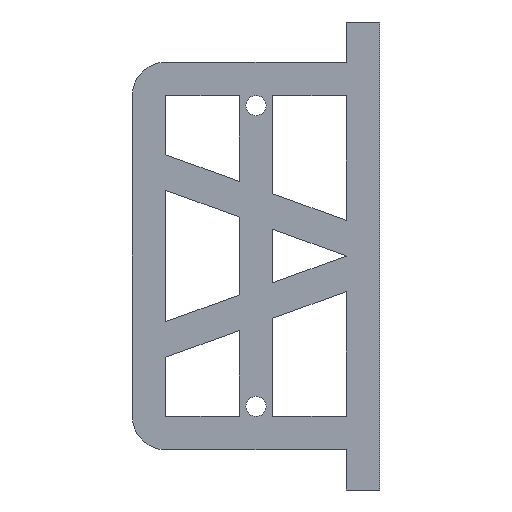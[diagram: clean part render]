
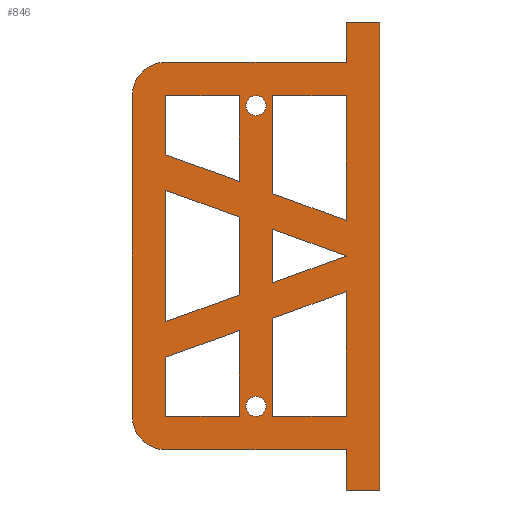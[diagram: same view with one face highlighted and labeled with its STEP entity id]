
A CAD part, left-side view. The second image highlights one B-rep face of the part: STEP entity #846.
In plain terms, the highlighted planar face has unit normal (-1, 0, 0).
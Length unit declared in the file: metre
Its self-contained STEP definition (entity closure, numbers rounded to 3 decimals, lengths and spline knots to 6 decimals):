
#20=LINE('',#1138,#115);
#24=LINE('',#1151,#119);
#28=LINE('',#1162,#123);
#32=LINE('',#1171,#127);
#35=LINE('',#1177,#130);
#38=LINE('',#1183,#133);
#42=LINE('',#1192,#137);
#45=LINE('',#1198,#140);
#48=LINE('',#1204,#143);
#52=LINE('',#1213,#147);
#55=LINE('',#1221,#150);
#58=LINE('',#1227,#153);
#62=LINE('',#1236,#157);
#65=LINE('',#1242,#160);
#68=LINE('',#1248,#163);
#72=LINE('',#1257,#167);
#75=LINE('',#1263,#170);
#79=LINE('',#1272,#174);
#82=LINE('',#1278,#177);
#85=LINE('',#1286,#180);
#89=LINE('',#1295,#184);
#93=LINE('',#1310,#188);
#96=LINE('',#1318,#191);
#99=LINE('',#1324,#194);
#101=LINE('',#1327,#196);
#103=LINE('',#1330,#198);
#105=LINE('',#1333,#200);
#107=LINE('',#1336,#202);
#109=LINE('',#1339,#204);
#111=LINE('',#1342,#206);
#113=LINE('',#1347,#208);
#115=VECTOR('',#929,1.);
#119=VECTOR('',#939,1.);
#123=VECTOR('',#947,1.);
#127=VECTOR('',#953,1.);
#130=VECTOR('',#958,1.);
#133=VECTOR('',#963,1.);
#137=VECTOR('',#969,1.);
#140=VECTOR('',#974,1.);
#143=VECTOR('',#979,1.);
#147=VECTOR('',#985,1.);
#150=VECTOR('',#992,1.);
#153=VECTOR('',#997,1.);
#157=VECTOR('',#1003,1.);
#160=VECTOR('',#1008,1.);
#163=VECTOR('',#1013,1.);
#167=VECTOR('',#1019,1.);
#170=VECTOR('',#1024,1.);
#174=VECTOR('',#1030,1.);
#177=VECTOR('',#1035,1.);
#180=VECTOR('',#1042,1.);
#184=VECTOR('',#1048,1.);
#188=VECTOR('',#1066,1.);
#191=VECTOR('',#1073,1.);
#194=VECTOR('',#1078,1.);
#196=VECTOR('',#1082,1.);
#198=VECTOR('',#1086,1.);
#200=VECTOR('',#1090,1.);
#202=VECTOR('',#1094,1.);
#204=VECTOR('',#1098,1.);
#206=VECTOR('',#1102,1.);
#208=VECTOR('',#1108,1.);
#385=ORIENTED_EDGE('',*,*,#541,.T.);
#386=ORIENTED_EDGE('',*,*,#542,.T.);
#387=ORIENTED_EDGE('',*,*,#503,.F.);
#388=ORIENTED_EDGE('',*,*,#534,.F.);
#389=ORIENTED_EDGE('',*,*,#439,.T.);
#390=ORIENTED_EDGE('',*,*,#522,.T.);
#391=ORIENTED_EDGE('',*,*,#519,.T.);
#392=ORIENTED_EDGE('',*,*,#515,.T.);
#393=ORIENTED_EDGE('',*,*,#512,.T.);
#394=ORIENTED_EDGE('',*,*,#433,.F.);
#395=ORIENTED_EDGE('',*,*,#510,.F.);
#396=ORIENTED_EDGE('',*,*,#507,.F.);
#397=ORIENTED_EDGE('',*,*,#492,.F.);
#398=ORIENTED_EDGE('',*,*,#532,.T.);
#399=ORIENTED_EDGE('',*,*,#499,.T.);
#400=ORIENTED_EDGE('',*,*,#496,.F.);
#401=ORIENTED_EDGE('',*,*,#485,.F.);
#402=ORIENTED_EDGE('',*,*,#530,.T.);
#403=ORIENTED_EDGE('',*,*,#489,.T.);
#404=ORIENTED_EDGE('',*,*,#475,.F.);
#405=ORIENTED_EDGE('',*,*,#528,.T.);
#406=ORIENTED_EDGE('',*,*,#482,.T.);
#407=ORIENTED_EDGE('',*,*,#479,.F.);
#408=ORIENTED_EDGE('',*,*,#464,.F.);
#409=ORIENTED_EDGE('',*,*,#526,.F.);
#410=ORIENTED_EDGE('',*,*,#472,.F.);
#411=ORIENTED_EDGE('',*,*,#468,.T.);
#412=ORIENTED_EDGE('',*,*,#454,.T.);
#413=ORIENTED_EDGE('',*,*,#524,.T.);
#414=ORIENTED_EDGE('',*,*,#461,.T.);
#415=ORIENTED_EDGE('',*,*,#458,.F.);
#416=ORIENTED_EDGE('',*,*,#444,.F.);
#417=ORIENTED_EDGE('',*,*,#537,.T.);
#418=ORIENTED_EDGE('',*,*,#451,.T.);
#419=ORIENTED_EDGE('',*,*,#448,.F.);
#433=EDGE_CURVE('',#544,#545,#20,.T.);
#439=EDGE_CURVE('',#550,#551,#24,.T.);
#444=EDGE_CURVE('',#555,#556,#28,.T.);
#448=EDGE_CURVE('',#556,#559,#32,.T.);
#451=EDGE_CURVE('',#561,#559,#35,.T.);
#454=EDGE_CURVE('',#563,#564,#38,.T.);
#458=EDGE_CURVE('',#563,#567,#42,.T.);
#461=EDGE_CURVE('',#569,#567,#45,.T.);
#464=EDGE_CURVE('',#571,#572,#48,.T.);
#468=EDGE_CURVE('',#575,#572,#52,.T.);
#472=EDGE_CURVE('',#575,#578,#55,.T.);
#475=EDGE_CURVE('',#580,#581,#58,.T.);
#479=EDGE_CURVE('',#581,#584,#62,.T.);
#482=EDGE_CURVE('',#586,#584,#65,.T.);
#485=EDGE_CURVE('',#588,#589,#68,.T.);
#489=EDGE_CURVE('',#592,#589,#72,.T.);
#492=EDGE_CURVE('',#594,#595,#75,.T.);
#496=EDGE_CURVE('',#595,#598,#79,.T.);
#499=EDGE_CURVE('',#600,#598,#82,.T.);
#503=EDGE_CURVE('',#603,#604,#85,.T.);
#507=EDGE_CURVE('',#604,#607,#89,.T.);
#510=EDGE_CURVE('',#607,#544,#627,.T.);
#512=EDGE_CURVE('',#609,#545,#629,.T.);
#515=EDGE_CURVE('',#611,#609,#93,.T.);
#519=EDGE_CURVE('',#614,#611,#96,.T.);
#522=EDGE_CURVE('',#551,#614,#99,.T.);
#524=EDGE_CURVE('',#564,#569,#101,.T.);
#526=EDGE_CURVE('',#578,#571,#103,.T.);
#528=EDGE_CURVE('',#580,#586,#105,.T.);
#530=EDGE_CURVE('',#588,#592,#107,.T.);
#532=EDGE_CURVE('',#594,#600,#109,.T.);
#534=EDGE_CURVE('',#550,#603,#111,.T.);
#537=EDGE_CURVE('',#555,#561,#113,.T.);
#541=EDGE_CURVE('',#619,#619,#635,.T.);
#542=EDGE_CURVE('',#620,#620,#636,.T.);
#544=VERTEX_POINT('',#1139);
#545=VERTEX_POINT('',#1140);
#550=VERTEX_POINT('',#1152);
#551=VERTEX_POINT('',#1153);
#555=VERTEX_POINT('',#1163);
#556=VERTEX_POINT('',#1164);
#559=VERTEX_POINT('',#1172);
#561=VERTEX_POINT('',#1178);
#563=VERTEX_POINT('',#1184);
#564=VERTEX_POINT('',#1185);
#567=VERTEX_POINT('',#1193);
#569=VERTEX_POINT('',#1199);
#571=VERTEX_POINT('',#1205);
#572=VERTEX_POINT('',#1206);
#575=VERTEX_POINT('',#1214);
#578=VERTEX_POINT('',#1222);
#580=VERTEX_POINT('',#1228);
#581=VERTEX_POINT('',#1229);
#584=VERTEX_POINT('',#1237);
#586=VERTEX_POINT('',#1243);
#588=VERTEX_POINT('',#1249);
#589=VERTEX_POINT('',#1250);
#592=VERTEX_POINT('',#1258);
#594=VERTEX_POINT('',#1264);
#595=VERTEX_POINT('',#1265);
#598=VERTEX_POINT('',#1273);
#600=VERTEX_POINT('',#1279);
#603=VERTEX_POINT('',#1287);
#604=VERTEX_POINT('',#1288);
#607=VERTEX_POINT('',#1296);
#609=VERTEX_POINT('',#1305);
#611=VERTEX_POINT('',#1311);
#614=VERTEX_POINT('',#1319);
#619=VERTEX_POINT('',#1356);
#620=VERTEX_POINT('',#1358);
#627=CIRCLE('',#894,0.005);
#629=CIRCLE('',#897,0.005);
#635=CIRCLE('',#915,0.0015);
#636=CIRCLE('',#916,0.0015);
#687=EDGE_LOOP('',(#385));
#688=EDGE_LOOP('',(#386));
#689=EDGE_LOOP('',(#387,#388,#389,#390,#391,#392,#393,#394,#395,#396));
#690=EDGE_LOOP('',(#397,#398,#399,#400));
#691=EDGE_LOOP('',(#401,#402,#403));
#692=EDGE_LOOP('',(#404,#405,#406,#407));
#693=EDGE_LOOP('',(#408,#409,#410,#411));
#694=EDGE_LOOP('',(#412,#413,#414,#415));
#695=EDGE_LOOP('',(#416,#417,#418,#419));
#758=FACE_BOUND('',#687,.T.);
#759=FACE_BOUND('',#688,.T.);
#760=FACE_BOUND('',#689,.T.);
#761=FACE_BOUND('',#690,.T.);
#762=FACE_BOUND('',#691,.T.);
#763=FACE_BOUND('',#692,.T.);
#764=FACE_BOUND('',#693,.T.);
#765=FACE_BOUND('',#694,.T.);
#766=FACE_BOUND('',#695,.T.);
#811=PLANE('',#914);
#846=ADVANCED_FACE('',(#758,#759,#760,#761,#762,#763,#764,#765,#766),#811,
 .F.);
#894=AXIS2_PLACEMENT_3D('',#1301,#1053,#1054);
#897=AXIS2_PLACEMENT_3D('',#1304,#1059,#1060);
#914=AXIS2_PLACEMENT_3D('',#1354,#1116,#1117);
#915=AXIS2_PLACEMENT_3D('',#1355,#1118,#1119);
#916=AXIS2_PLACEMENT_3D('',#1357,#1120,#1121);
#929=DIRECTION('',(0.,0.,1.));
#939=DIRECTION('',(0.,0.,1.));
#947=DIRECTION('',(0.,-0.94,-0.342));
#953=DIRECTION('',(0.,0.,1.));
#958=DIRECTION('',(0.,-1.,0.));
#963=DIRECTION('',(0.,0.,1.));
#969=DIRECTION('',(0.,-0.94,-0.342));
#974=DIRECTION('',(0.,0.,-1.));
#979=DIRECTION('',(0.,0.,1.));
#985=DIRECTION('',(0.,-0.94,0.342));
#992=DIRECTION('',(0.,0.,-1.));
#997=DIRECTION('',(0.,-0.94,0.342));
#1003=DIRECTION('',(0.,0.,1.));
#1008=DIRECTION('',(0.,-0.94,-0.342));
#1013=DIRECTION('',(0.,-0.94,0.342));
#1019=DIRECTION('',(0.,-0.94,-0.342));
#1024=DIRECTION('',(0.,-1.,0.));
#1030=DIRECTION('',(0.,0.,1.));
#1035=DIRECTION('',(0.,-0.94,0.342));
#1042=DIRECTION('',(0.,0.,1.));
#1048=DIRECTION('',(0.,1.,0.));
#1053=DIRECTION('',(1.,0.,0.));
#1054=DIRECTION('',(0.,1.,0.));
#1059=DIRECTION('',(-1.,0.,0.));
#1060=DIRECTION('',(0.,1.,0.));
#1066=DIRECTION('',(0.,1.,0.));
#1073=DIRECTION('',(0.,0.,-1.));
#1078=DIRECTION('',(0.,1.,0.));
#1082=DIRECTION('',(0.,-1.,0.));
#1086=DIRECTION('',(0.,-1.,0.));
#1090=DIRECTION('',(0.,0.,1.));
#1094=DIRECTION('',(0.,0.,1.));
#1098=DIRECTION('',(0.,0.,1.));
#1102=DIRECTION('',(0.,1.,0.));
#1108=DIRECTION('',(0.,0.,1.));
#1116=DIRECTION('',(1.,0.,0.));
#1117=DIRECTION('',(0.,0.,1.));
#1118=DIRECTION('',(1.,0.,0.));
#1119=DIRECTION('',(0.,1.,0.));
#1120=DIRECTION('',(1.,0.,0.));
#1121=DIRECTION('',(0.,1.,0.));
#1138=CARTESIAN_POINT('',(0.,0.,-0.023));
#1139=CARTESIAN_POINT('',(0.,0.,-0.024));
#1140=CARTESIAN_POINT('',(0.,0.,0.024));
#1151=CARTESIAN_POINT('',(0.,-0.037,-0.032));
#1152=CARTESIAN_POINT('',(0.,-0.037,-0.035));
#1153=CARTESIAN_POINT('',(0.,-0.037,0.035));
#1162=CARTESIAN_POINT('',(0.,-0.0105,0.013146));
#1163=CARTESIAN_POINT('',(0.,-0.005,0.015148));
#1164=CARTESIAN_POINT('',(0.,-0.016,0.011144));
#1171=CARTESIAN_POINT('',(0.,-0.016,0.017572));
#1172=CARTESIAN_POINT('',(0.,-0.016,0.024));
#1177=CARTESIAN_POINT('',(0.,-0.0105,0.024));
#1178=CARTESIAN_POINT('',(0.,-0.005,0.024));
#1183=CARTESIAN_POINT('',(0.,-0.021,0.016662));
#1184=CARTESIAN_POINT('',(0.,-0.021,0.009325));
#1185=CARTESIAN_POINT('',(0.,-0.021,0.024));
#1192=CARTESIAN_POINT('',(0.,-0.0265,0.007323));
#1193=CARTESIAN_POINT('',(0.,-0.032,0.005321));
#1198=CARTESIAN_POINT('',(0.,-0.032,0.01466));
#1199=CARTESIAN_POINT('',(0.,-0.032,0.024));
#1204=CARTESIAN_POINT('',(0.,-0.016,-0.017572));
#1205=CARTESIAN_POINT('',(0.,-0.016,-0.024));
#1206=CARTESIAN_POINT('',(0.,-0.016,-0.011144));
#1213=CARTESIAN_POINT('',(0.,-0.0105,-0.013146));
#1214=CARTESIAN_POINT('',(0.,-0.005,-0.015148));
#1221=CARTESIAN_POINT('',(0.,-0.005,-0.019574));
#1222=CARTESIAN_POINT('',(0.,-0.005,-0.024));
#1227=CARTESIAN_POINT('',(0.,-0.0105,-0.007825));
#1228=CARTESIAN_POINT('',(0.,-0.005,-0.009827));
#1229=CARTESIAN_POINT('',(0.,-0.016,-0.005824));
#1236=CARTESIAN_POINT('',(0.,-0.016,0.));
#1237=CARTESIAN_POINT('',(0.,-0.016,0.005824));
#1242=CARTESIAN_POINT('',(0.,-0.0105,0.007825));
#1243=CARTESIAN_POINT('',(0.,-0.005,0.009827));
#1248=CARTESIAN_POINT('',(0.,-0.0265,-0.002002));
#1249=CARTESIAN_POINT('',(0.,-0.021,-0.004004));
#1250=CARTESIAN_POINT('',(0.,-0.032,0.));
#1257=CARTESIAN_POINT('',(0.,-0.0265,0.002002));
#1258=CARTESIAN_POINT('',(0.,-0.021,0.004004));
#1263=CARTESIAN_POINT('',(0.,-0.0265,-0.024));
#1264=CARTESIAN_POINT('',(0.,-0.021,-0.024));
#1265=CARTESIAN_POINT('',(0.,-0.032,-0.024));
#1272=CARTESIAN_POINT('',(0.,-0.032,-0.01466));
#1273=CARTESIAN_POINT('',(0.,-0.032,-0.005321));
#1278=CARTESIAN_POINT('',(0.,-0.0265,-0.007323));
#1279=CARTESIAN_POINT('',(0.,-0.021,-0.009325));
#1286=CARTESIAN_POINT('',(0.,-0.032,-0.032));
#1287=CARTESIAN_POINT('',(0.,-0.032,-0.035));
#1288=CARTESIAN_POINT('',(0.,-0.032,-0.029));
#1295=CARTESIAN_POINT('',(0.,-0.0185,-0.029));
#1296=CARTESIAN_POINT('',(0.,-0.005,-0.029));
#1301=CARTESIAN_POINT('',(0.,-0.005,-0.024));
#1304=CARTESIAN_POINT('',(0.,-0.005,0.024));
#1305=CARTESIAN_POINT('',(0.,-0.005,0.029));
#1310=CARTESIAN_POINT('',(0.,-0.0185,0.029));
#1311=CARTESIAN_POINT('',(0.,-0.032,0.029));
#1318=CARTESIAN_POINT('',(0.,-0.032,0.032));
#1319=CARTESIAN_POINT('',(0.,-0.032,0.035));
#1324=CARTESIAN_POINT('',(0.,-0.0345,0.035));
#1327=CARTESIAN_POINT('',(0.,-0.0265,0.024));
#1330=CARTESIAN_POINT('',(0.,-0.0105,-0.024));
#1333=CARTESIAN_POINT('',(0.,-0.005,0.004914));
#1336=CARTESIAN_POINT('',(0.,-0.021,0.));
#1339=CARTESIAN_POINT('',(0.,-0.021,-0.016662));
#1342=CARTESIAN_POINT('',(0.,-0.0345,-0.035));
#1347=CARTESIAN_POINT('',(0.,-0.005,0.019574));
#1354=CARTESIAN_POINT('',(0.,-0.0185,0.));
#1355=CARTESIAN_POINT('',(0.,-0.0185,-0.0225));
#1356=CARTESIAN_POINT('',(0.,-0.017,-0.0225));
#1357=CARTESIAN_POINT('',(0.,-0.0185,0.0225));
#1358=CARTESIAN_POINT('',(0.,-0.017,0.0225));
